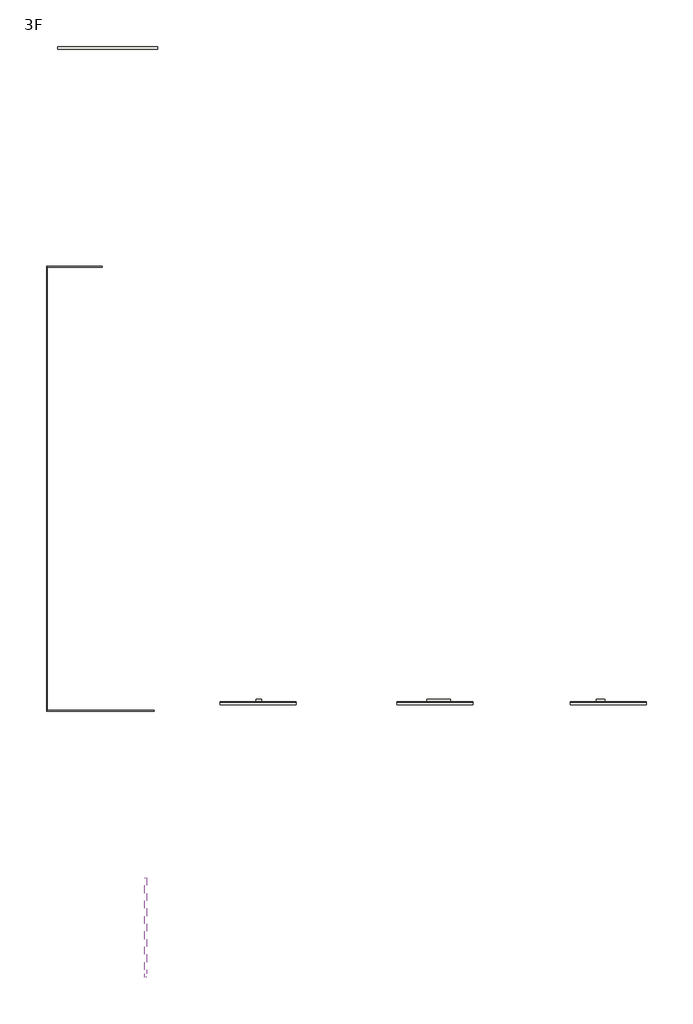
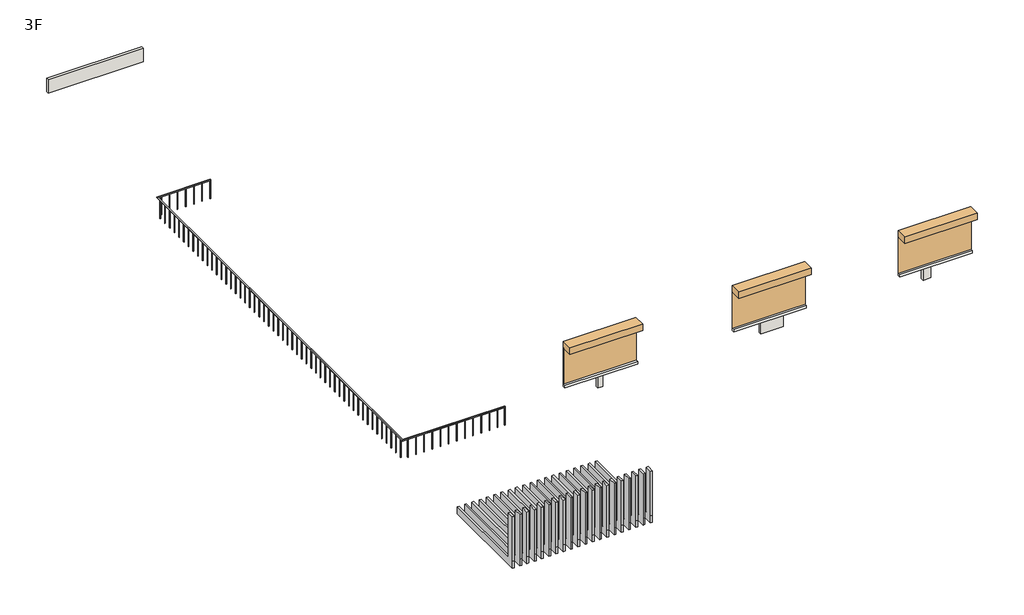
# One storey: 4 walls, 3 doors, 2 railings, 1 slab.
"""IFC4 building model written with IfcOpenShell, lengths in millimetres."""

from ifc_helpers import new_model, si_unit, frame, origin, place, context, project, spatial, polyline, outline, extrude, faceted_brep, transform, mapped, element, save
from components import rd4_2435_x_1981mm_6cb75701, railing_e0f793d8

model = new_model("IFC4")

# Units and contexts
model_context = context("Model", 3, world=origin())
ifc_project = project(units=[si_unit("LENGTHUNIT", "METRE", prefix="MILLI")], contexts=[model_context])

# Site, building, storey
site = spatial("IfcSite", under=ifc_project)
building = spatial("IfcBuilding", under=site)
storey = spatial("IfcBuildingStorey", under=building, Name="3F", Elevation=8350.0)

# Doors
placement = place(None, origin())
rd4_2435_x_1981mm_shape = rd4_2435_x_1981mm_6cb75701(model_context)
element("IfcDoor", 1, ObjectType="RD4 : 2435 x 1981mm", at=placement, inside=storey, context=model_context, shape_type="MappedRepresentation", body=[
    mapped(rd4_2435_x_1981mm_shape, transform((4930.1689947, -13704.9049261, 9250.0), x_axis=(1.0, 0.0, 0.0), y_axis=(0.0, 1.0, 0.0), z_axis=(0.0, 0.0, 1.0))),
])
element("IfcDoor", 2, ObjectType="RD4 : 2435 x 1981mm", at=placement, inside=storey, context=model_context, shape_type="MappedRepresentation", body=[
    mapped(rd4_2435_x_1981mm_shape, transform((14230.1689947, -13704.9049261, 9250.0), x_axis=(1.0, 0.0, 0.0), y_axis=(0.0, 1.0, 0.0), z_axis=(0.0, 0.0, 1.0))),
])
element("IfcDoor", 3, ObjectType="RD4 : 2435 x 1981mm", at=placement, inside=storey, context=model_context, shape_type="MappedRepresentation", body=[
    mapped(rd4_2435_x_1981mm_shape, transform((23380.168995, -13704.9049261, 9250.0), x_axis=(1.0, 0.0, 0.0), y_axis=(0.0, 1.0, 0.0), z_axis=(0.0, 0.0, 1.0))),
])

# Railings
railing_shape = railing_e0f793d8(model_context)
element("IfcRailing", 4, ObjectType="南向隔柵59 : 南向隔柵1", at=placement, inside=storey, context=model_context, shape_type="MappedRepresentation", body=[
    mapped(railing_shape, transform((0.0, 0.0, 0.0), x_axis=(1.0, 0.0, 0.0), y_axis=(0.0, 1.0, 0.0), z_axis=(0.0, 0.0, 1.0))),
])
element("IfcRailing", 5, ObjectType="1100mm", at=placement, inside=storey, context=model_context, shape_type="SolidModel", body=[
    faceted_brep([(-2509.1310053, 9100.0950739, 9450.0), (-2509.1310053, 9100.0950739, 9400.0), (-2509.1310053, 9150.0950739, 9400.0), (-2509.1310053, 9150.0950739, 9450.0), (-5384.1310053, 9100.0950739, 9450.0), (-5384.1310053, 9100.0950739, 9400.0), (-5434.1310053, 9150.0950739, 9400.0), (-5434.1310053, 9150.0950739, 9450.0), (-5384.1310053, -14209.9049261, 9450.0), (-5384.1310053, -14209.9049261, 9400.0), (-5434.1310053, -14259.9049261, 9400.0), (-5434.1310053, -14259.9049261, 9450.0), (230.8689947, -14209.9049261, 9450.0), (230.8689947, -14259.9049261, 9450.0), (230.8689947, -14259.9049261, 9400.0), (230.8689947, -14209.9049261, 9400.0)], [[[0, 1, 2, 3]], [[1, 0, 4, 5]], [[2, 1, 5, 6]], [[3, 2, 6, 7]], [[0, 3, 7, 4]], [[5, 4, 8, 9]], [[6, 5, 9, 10]], [[7, 6, 10, 11]], [[4, 7, 11, 8]], [[12, 13, 14, 15]], [[9, 8, 12, 15]], [[10, 9, 15, 14]], [[11, 10, 14, 13]], [[8, 11, 13, 12]]]),
    extrude(outline(polyline([(-181.6310053, -14247.4049261), (-181.6310053, -14222.4049261), (-156.6310053, -14222.4049261), (-156.6310053, -14247.4049261), (-181.6310053, -14247.4049261)])), frame((0.0, 0.0, 8350.0), z_axis=(0.0, 0.0, 1.0), x_axis=(1.0, 0.0, 0.0)), (0.0, 0.0, 1.0), 1050.0),
    extrude(outline(polyline([(-631.6310053, -14247.4049261), (-631.6310053, -14222.4049261), (-606.6310053, -14222.4049261), (-606.6310053, -14247.4049261), (-631.6310053, -14247.4049261)])), frame((0.0, 0.0, 8350.0), z_axis=(0.0, 0.0, 1.0), x_axis=(1.0, 0.0, 0.0)), (0.0, 0.0, 1.0), 1050.0),
    extrude(outline(polyline([(-1081.6310053, -14247.4049261), (-1081.6310053, -14222.4049261), (-1056.6310053, -14222.4049261), (-1056.6310053, -14247.4049261), (-1081.6310053, -14247.4049261)])), frame((0.0, 0.0, 8350.0), z_axis=(0.0, 0.0, 1.0), x_axis=(1.0, 0.0, 0.0)), (0.0, 0.0, 1.0), 1050.0),
    extrude(outline(polyline([(-1531.6310053, -14247.4049261), (-1531.6310053, -14222.4049261), (-1506.6310053, -14222.4049261), (-1506.6310053, -14247.4049261), (-1531.6310053, -14247.4049261)])), frame((0.0, 0.0, 8350.0), z_axis=(0.0, 0.0, 1.0), x_axis=(1.0, 0.0, 0.0)), (0.0, 0.0, 1.0), 1050.0),
    extrude(outline(polyline([(-1981.6310053, -14247.4049261), (-1981.6310053, -14222.4049261), (-1956.6310053, -14222.4049261), (-1956.6310053, -14247.4049261), (-1981.6310053, -14247.4049261)])), frame((0.0, 0.0, 8350.0), z_axis=(0.0, 0.0, 1.0), x_axis=(1.0, 0.0, 0.0)), (0.0, 0.0, 1.0), 1050.0),
    extrude(outline(polyline([(-2431.6310053, -14247.4049261), (-2431.6310053, -14222.4049261), (-2406.6310053, -14222.4049261), (-2406.6310053, -14247.4049261), (-2431.6310053, -14247.4049261)])), frame((0.0, 0.0, 8350.0), z_axis=(0.0, 0.0, 1.0), x_axis=(1.0, 0.0, 0.0)), (0.0, 0.0, 1.0), 1050.0),
    extrude(outline(polyline([(-2881.6310053, -14247.4049261), (-2881.6310053, -14222.4049261), (-2856.6310053, -14222.4049261), (-2856.6310053, -14247.4049261), (-2881.6310053, -14247.4049261)])), frame((0.0, 0.0, 8350.0), z_axis=(0.0, 0.0, 1.0), x_axis=(1.0, 0.0, 0.0)), (0.0, 0.0, 1.0), 1050.0),
    extrude(outline(polyline([(-3331.6310053, -14247.4049261), (-3331.6310053, -14222.4049261), (-3306.6310053, -14222.4049261), (-3306.6310053, -14247.4049261), (-3331.6310053, -14247.4049261)])), frame((0.0, 0.0, 8350.0), z_axis=(0.0, 0.0, 1.0), x_axis=(1.0, 0.0, 0.0)), (0.0, 0.0, 1.0), 1050.0),
    extrude(outline(polyline([(-3781.6310053, -14247.4049261), (-3781.6310053, -14222.4049261), (-3756.6310053, -14222.4049261), (-3756.6310053, -14247.4049261), (-3781.6310053, -14247.4049261)])), frame((0.0, 0.0, 8350.0), z_axis=(0.0, 0.0, 1.0), x_axis=(1.0, 0.0, 0.0)), (0.0, 0.0, 1.0), 1050.0),
    extrude(outline(polyline([(-4231.6310053, -14247.4049261), (-4231.6310053, -14222.4049261), (-4206.6310053, -14222.4049261), (-4206.6310053, -14247.4049261), (-4231.6310053, -14247.4049261)])), frame((0.0, 0.0, 8350.0), z_axis=(0.0, 0.0, 1.0), x_axis=(1.0, 0.0, 0.0)), (0.0, 0.0, 1.0), 1050.0),
    extrude(outline(polyline([(-4681.6310053, -14247.4049261), (-4681.6310053, -14222.4049261), (-4656.6310053, -14222.4049261), (-4656.6310053, -14247.4049261), (-4681.6310053, -14247.4049261)])), frame((0.0, 0.0, 8350.0), z_axis=(0.0, 0.0, 1.0), x_axis=(1.0, 0.0, 0.0)), (0.0, 0.0, 1.0), 1050.0),
    extrude(outline(polyline([(-5131.6310053, -14247.4049261), (-5131.6310053, -14222.4049261), (-5106.6310053, -14222.4049261), (-5106.6310053, -14247.4049261), (-5131.6310053, -14247.4049261)])), frame((0.0, 0.0, 8350.0), z_axis=(0.0, 0.0, 1.0), x_axis=(1.0, 0.0, 0.0)), (0.0, 0.0, 1.0), 1050.0),
    extrude(outline(polyline([(-5421.6310053, -14062.4049261), (-5396.6310053, -14062.4049261), (-5396.6310053, -14087.4049261), (-5421.6310053, -14087.4049261), (-5421.6310053, -14062.4049261)])), frame((0.0, 0.0, 8350.0), z_axis=(0.0, 0.0, 1.0), x_axis=(1.0, 0.0, 0.0)), (0.0, 0.0, 1.0), 1050.0),
    extrude(outline(polyline([(-5421.6310053, -13612.4049261), (-5396.6310053, -13612.4049261), (-5396.6310053, -13637.4049261), (-5421.6310053, -13637.4049261), (-5421.6310053, -13612.4049261)])), frame((0.0, 0.0, 8350.0), z_axis=(0.0, 0.0, 1.0), x_axis=(1.0, 0.0, 0.0)), (0.0, 0.0, 1.0), 1050.0),
    extrude(outline(polyline([(-5421.6310053, -13162.4049261), (-5396.6310053, -13162.4049261), (-5396.6310053, -13187.4049261), (-5421.6310053, -13187.4049261), (-5421.6310053, -13162.4049261)])), frame((0.0, 0.0, 8350.0), z_axis=(0.0, 0.0, 1.0), x_axis=(1.0, 0.0, 0.0)), (0.0, 0.0, 1.0), 1050.0),
    extrude(outline(polyline([(-5421.6310053, -12712.4049261), (-5396.6310053, -12712.4049261), (-5396.6310053, -12737.4049261), (-5421.6310053, -12737.4049261), (-5421.6310053, -12712.4049261)])), frame((0.0, 0.0, 8350.0), z_axis=(0.0, 0.0, 1.0), x_axis=(1.0, 0.0, 0.0)), (0.0, 0.0, 1.0), 1050.0),
    extrude(outline(polyline([(-5421.6310053, -12262.4049261), (-5396.6310053, -12262.4049261), (-5396.6310053, -12287.4049261), (-5421.6310053, -12287.4049261), (-5421.6310053, -12262.4049261)])), frame((0.0, 0.0, 8350.0), z_axis=(0.0, 0.0, 1.0), x_axis=(1.0, 0.0, 0.0)), (0.0, 0.0, 1.0), 1050.0),
    extrude(outline(polyline([(-5421.6310053, -11812.4049261), (-5396.6310053, -11812.4049261), (-5396.6310053, -11837.4049261), (-5421.6310053, -11837.4049261), (-5421.6310053, -11812.4049261)])), frame((0.0, 0.0, 8350.0), z_axis=(0.0, 0.0, 1.0), x_axis=(1.0, 0.0, 0.0)), (0.0, 0.0, 1.0), 1050.0),
    extrude(outline(polyline([(-5421.6310053, -11362.4049261), (-5396.6310053, -11362.4049261), (-5396.6310053, -11387.4049261), (-5421.6310053, -11387.4049261), (-5421.6310053, -11362.4049261)])), frame((0.0, 0.0, 8350.0), z_axis=(0.0, 0.0, 1.0), x_axis=(1.0, 0.0, 0.0)), (0.0, 0.0, 1.0), 1050.0),
    extrude(outline(polyline([(-5421.6310053, -10912.4049261), (-5396.6310053, -10912.4049261), (-5396.6310053, -10937.4049261), (-5421.6310053, -10937.4049261), (-5421.6310053, -10912.4049261)])), frame((0.0, 0.0, 8350.0), z_axis=(0.0, 0.0, 1.0), x_axis=(1.0, 0.0, 0.0)), (0.0, 0.0, 1.0), 1050.0),
    extrude(outline(polyline([(-5421.6310053, -10462.4049261), (-5396.6310053, -10462.4049261), (-5396.6310053, -10487.4049261), (-5421.6310053, -10487.4049261), (-5421.6310053, -10462.4049261)])), frame((0.0, 0.0, 8350.0), z_axis=(0.0, 0.0, 1.0), x_axis=(1.0, 0.0, 0.0)), (0.0, 0.0, 1.0), 1050.0),
    extrude(outline(polyline([(-5421.6310053, -10012.4049261), (-5396.6310053, -10012.4049261), (-5396.6310053, -10037.4049261), (-5421.6310053, -10037.4049261), (-5421.6310053, -10012.4049261)])), frame((0.0, 0.0, 8350.0), z_axis=(0.0, 0.0, 1.0), x_axis=(1.0, 0.0, 0.0)), (0.0, 0.0, 1.0), 1050.0),
    extrude(outline(polyline([(-5421.6310053, -9562.4049261), (-5396.6310053, -9562.4049261), (-5396.6310053, -9587.4049261), (-5421.6310053, -9587.4049261), (-5421.6310053, -9562.4049261)])), frame((0.0, 0.0, 8350.0), z_axis=(0.0, 0.0, 1.0), x_axis=(1.0, 0.0, 0.0)), (0.0, 0.0, 1.0), 1050.0),
    extrude(outline(polyline([(-5421.6310053, -9112.4049261), (-5396.6310053, -9112.4049261), (-5396.6310053, -9137.4049261), (-5421.6310053, -9137.4049261), (-5421.6310053, -9112.4049261)])), frame((0.0, 0.0, 8350.0), z_axis=(0.0, 0.0, 1.0), x_axis=(1.0, 0.0, 0.0)), (0.0, 0.0, 1.0), 1050.0),
    extrude(outline(polyline([(-5421.6310053, -8662.4049261), (-5396.6310053, -8662.4049261), (-5396.6310053, -8687.4049261), (-5421.6310053, -8687.4049261), (-5421.6310053, -8662.4049261)])), frame((0.0, 0.0, 8350.0), z_axis=(0.0, 0.0, 1.0), x_axis=(1.0, 0.0, 0.0)), (0.0, 0.0, 1.0), 1050.0),
    extrude(outline(polyline([(-5421.6310053, -8212.4049261), (-5396.6310053, -8212.4049261), (-5396.6310053, -8237.4049261), (-5421.6310053, -8237.4049261), (-5421.6310053, -8212.4049261)])), frame((0.0, 0.0, 8350.0), z_axis=(0.0, 0.0, 1.0), x_axis=(1.0, 0.0, 0.0)), (0.0, 0.0, 1.0), 1050.0),
    extrude(outline(polyline([(-5421.6310053, -7762.4049261), (-5396.6310053, -7762.4049261), (-5396.6310053, -7787.4049261), (-5421.6310053, -7787.4049261), (-5421.6310053, -7762.4049261)])), frame((0.0, 0.0, 8350.0), z_axis=(0.0, 0.0, 1.0), x_axis=(1.0, 0.0, 0.0)), (0.0, 0.0, 1.0), 1050.0),
    extrude(outline(polyline([(-5421.6310053, -7312.4049261), (-5396.6310053, -7312.4049261), (-5396.6310053, -7337.4049261), (-5421.6310053, -7337.4049261), (-5421.6310053, -7312.4049261)])), frame((0.0, 0.0, 8350.0), z_axis=(0.0, 0.0, 1.0), x_axis=(1.0, 0.0, 0.0)), (0.0, 0.0, 1.0), 1050.0),
    extrude(outline(polyline([(-5421.6310053, -6862.4049261), (-5396.6310053, -6862.4049261), (-5396.6310053, -6887.4049261), (-5421.6310053, -6887.4049261), (-5421.6310053, -6862.4049261)])), frame((0.0, 0.0, 8350.0), z_axis=(0.0, 0.0, 1.0), x_axis=(1.0, 0.0, 0.0)), (0.0, 0.0, 1.0), 1050.0),
    extrude(outline(polyline([(-5421.6310053, -6412.4049261), (-5396.6310053, -6412.4049261), (-5396.6310053, -6437.4049261), (-5421.6310053, -6437.4049261), (-5421.6310053, -6412.4049261)])), frame((0.0, 0.0, 8350.0), z_axis=(0.0, 0.0, 1.0), x_axis=(1.0, 0.0, 0.0)), (0.0, 0.0, 1.0), 1050.0),
    extrude(outline(polyline([(-5421.6310053, -5962.4049261), (-5396.6310053, -5962.4049261), (-5396.6310053, -5987.4049261), (-5421.6310053, -5987.4049261), (-5421.6310053, -5962.4049261)])), frame((0.0, 0.0, 8350.0), z_axis=(0.0, 0.0, 1.0), x_axis=(1.0, 0.0, 0.0)), (0.0, 0.0, 1.0), 1050.0),
    extrude(outline(polyline([(-5421.6310053, -5512.4049261), (-5396.6310053, -5512.4049261), (-5396.6310053, -5537.4049261), (-5421.6310053, -5537.4049261), (-5421.6310053, -5512.4049261)])), frame((0.0, 0.0, 8350.0), z_axis=(0.0, 0.0, 1.0), x_axis=(1.0, 0.0, 0.0)), (0.0, 0.0, 1.0), 1050.0),
    extrude(outline(polyline([(-5421.6310053, -5062.4049261), (-5396.6310053, -5062.4049261), (-5396.6310053, -5087.4049261), (-5421.6310053, -5087.4049261), (-5421.6310053, -5062.4049261)])), frame((0.0, 0.0, 8350.0), z_axis=(0.0, 0.0, 1.0), x_axis=(1.0, 0.0, 0.0)), (0.0, 0.0, 1.0), 1050.0),
    extrude(outline(polyline([(-5421.6310053, -4612.4049261), (-5396.6310053, -4612.4049261), (-5396.6310053, -4637.4049261), (-5421.6310053, -4637.4049261), (-5421.6310053, -4612.4049261)])), frame((0.0, 0.0, 8350.0), z_axis=(0.0, 0.0, 1.0), x_axis=(1.0, 0.0, 0.0)), (0.0, 0.0, 1.0), 1050.0),
    extrude(outline(polyline([(-5421.6310053, -4162.4049261), (-5396.6310053, -4162.4049261), (-5396.6310053, -4187.4049261), (-5421.6310053, -4187.4049261), (-5421.6310053, -4162.4049261)])), frame((0.0, 0.0, 8350.0), z_axis=(0.0, 0.0, 1.0), x_axis=(1.0, 0.0, 0.0)), (0.0, 0.0, 1.0), 1050.0),
    extrude(outline(polyline([(-5421.6310053, -3712.4049261), (-5396.6310053, -3712.4049261), (-5396.6310053, -3737.4049261), (-5421.6310053, -3737.4049261), (-5421.6310053, -3712.4049261)])), frame((0.0, 0.0, 8350.0), z_axis=(0.0, 0.0, 1.0), x_axis=(1.0, 0.0, 0.0)), (0.0, 0.0, 1.0), 1050.0),
    extrude(outline(polyline([(-5421.6310053, -3262.4049261), (-5396.6310053, -3262.4049261), (-5396.6310053, -3287.4049261), (-5421.6310053, -3287.4049261), (-5421.6310053, -3262.4049261)])), frame((0.0, 0.0, 8350.0), z_axis=(0.0, 0.0, 1.0), x_axis=(1.0, 0.0, 0.0)), (0.0, 0.0, 1.0), 1050.0),
    extrude(outline(polyline([(-5421.6310053, -2812.4049261), (-5396.6310053, -2812.4049261), (-5396.6310053, -2837.4049261), (-5421.6310053, -2837.4049261), (-5421.6310053, -2812.4049261)])), frame((0.0, 0.0, 8350.0), z_axis=(0.0, 0.0, 1.0), x_axis=(1.0, 0.0, 0.0)), (0.0, 0.0, 1.0), 1050.0),
    extrude(outline(polyline([(-5421.6310053, -2362.4049261), (-5396.6310053, -2362.4049261), (-5396.6310053, -2387.4049261), (-5421.6310053, -2387.4049261), (-5421.6310053, -2362.4049261)])), frame((0.0, 0.0, 8350.0), z_axis=(0.0, 0.0, 1.0), x_axis=(1.0, 0.0, 0.0)), (0.0, 0.0, 1.0), 1050.0),
    extrude(outline(polyline([(-5421.6310053, -1912.4049261), (-5396.6310053, -1912.4049261), (-5396.6310053, -1937.4049261), (-5421.6310053, -1937.4049261), (-5421.6310053, -1912.4049261)])), frame((0.0, 0.0, 8350.0), z_axis=(0.0, 0.0, 1.0), x_axis=(1.0, 0.0, 0.0)), (0.0, 0.0, 1.0), 1050.0),
    extrude(outline(polyline([(-5421.6310053, -1462.4049261), (-5396.6310053, -1462.4049261), (-5396.6310053, -1487.4049261), (-5421.6310053, -1487.4049261), (-5421.6310053, -1462.4049261)])), frame((0.0, 0.0, 8350.0), z_axis=(0.0, 0.0, 1.0), x_axis=(1.0, 0.0, 0.0)), (0.0, 0.0, 1.0), 1050.0),
    extrude(outline(polyline([(-5421.6310053, -1012.4049261), (-5396.6310053, -1012.4049261), (-5396.6310053, -1037.4049261), (-5421.6310053, -1037.4049261), (-5421.6310053, -1012.4049261)])), frame((0.0, 0.0, 8350.0), z_axis=(0.0, 0.0, 1.0), x_axis=(1.0, 0.0, 0.0)), (0.0, 0.0, 1.0), 1050.0),
    extrude(outline(polyline([(-5421.6310053, -562.4049261), (-5396.6310053, -562.4049261), (-5396.6310053, -587.4049261), (-5421.6310053, -587.4049261), (-5421.6310053, -562.4049261)])), frame((0.0, 0.0, 8350.0), z_axis=(0.0, 0.0, 1.0), x_axis=(1.0, 0.0, 0.0)), (0.0, 0.0, 1.0), 1050.0),
    extrude(outline(polyline([(-5421.6310053, -112.4049261), (-5396.6310053, -112.4049261), (-5396.6310053, -137.4049261), (-5421.6310053, -137.4049261), (-5421.6310053, -112.4049261)])), frame((0.0, 0.0, 8350.0), z_axis=(0.0, 0.0, 1.0), x_axis=(1.0, 0.0, 0.0)), (0.0, 0.0, 1.0), 1050.0),
    extrude(outline(polyline([(-5421.6310053, 337.5950739), (-5396.6310053, 337.5950739), (-5396.6310053, 312.5950739), (-5421.6310053, 312.5950739), (-5421.6310053, 337.5950739)])), frame((0.0, 0.0, 8350.0), z_axis=(0.0, 0.0, 1.0), x_axis=(1.0, 0.0, 0.0)), (0.0, 0.0, 1.0), 1050.0),
    extrude(outline(polyline([(-5421.6310053, 787.5950739), (-5396.6310053, 787.5950739), (-5396.6310053, 762.5950739), (-5421.6310053, 762.5950739), (-5421.6310053, 787.5950739)])), frame((0.0, 0.0, 8350.0), z_axis=(0.0, 0.0, 1.0), x_axis=(1.0, 0.0, 0.0)), (0.0, 0.0, 1.0), 1050.0),
    extrude(outline(polyline([(-5421.6310053, 1237.5950739), (-5396.6310053, 1237.5950739), (-5396.6310053, 1212.5950739), (-5421.6310053, 1212.5950739), (-5421.6310053, 1237.5950739)])), frame((0.0, 0.0, 8350.0), z_axis=(0.0, 0.0, 1.0), x_axis=(1.0, 0.0, 0.0)), (0.0, 0.0, 1.0), 1050.0),
    extrude(outline(polyline([(-5421.6310053, 1687.5950739), (-5396.6310053, 1687.5950739), (-5396.6310053, 1662.5950739), (-5421.6310053, 1662.5950739), (-5421.6310053, 1687.5950739)])), frame((0.0, 0.0, 8350.0), z_axis=(0.0, 0.0, 1.0), x_axis=(1.0, 0.0, 0.0)), (0.0, 0.0, 1.0), 1050.0),
    extrude(outline(polyline([(-5421.6310053, 2137.5950739), (-5396.6310053, 2137.5950739), (-5396.6310053, 2112.5950739), (-5421.6310053, 2112.5950739), (-5421.6310053, 2137.5950739)])), frame((0.0, 0.0, 8350.0), z_axis=(0.0, 0.0, 1.0), x_axis=(1.0, 0.0, 0.0)), (0.0, 0.0, 1.0), 1050.0),
    extrude(outline(polyline([(-5421.6310053, 2587.5950739), (-5396.6310053, 2587.5950739), (-5396.6310053, 2562.5950739), (-5421.6310053, 2562.5950739), (-5421.6310053, 2587.5950739)])), frame((0.0, 0.0, 8350.0), z_axis=(0.0, 0.0, 1.0), x_axis=(1.0, 0.0, 0.0)), (0.0, 0.0, 1.0), 1050.0),
    extrude(outline(polyline([(-5421.6310053, 3037.5950739), (-5396.6310053, 3037.5950739), (-5396.6310053, 3012.5950739), (-5421.6310053, 3012.5950739), (-5421.6310053, 3037.5950739)])), frame((0.0, 0.0, 8350.0), z_axis=(0.0, 0.0, 1.0), x_axis=(1.0, 0.0, 0.0)), (0.0, 0.0, 1.0), 1050.0),
    extrude(outline(polyline([(-5421.6310053, 3487.5950739), (-5396.6310053, 3487.5950739), (-5396.6310053, 3462.5950739), (-5421.6310053, 3462.5950739), (-5421.6310053, 3487.5950739)])), frame((0.0, 0.0, 8350.0), z_axis=(0.0, 0.0, 1.0), x_axis=(1.0, 0.0, 0.0)), (0.0, 0.0, 1.0), 1050.0),
    extrude(outline(polyline([(-5421.6310053, 3937.5950739), (-5396.6310053, 3937.5950739), (-5396.6310053, 3912.5950739), (-5421.6310053, 3912.5950739), (-5421.6310053, 3937.5950739)])), frame((0.0, 0.0, 8350.0), z_axis=(0.0, 0.0, 1.0), x_axis=(1.0, 0.0, 0.0)), (0.0, 0.0, 1.0), 1050.0),
    extrude(outline(polyline([(-5421.6310053, 4387.5950739), (-5396.6310053, 4387.5950739), (-5396.6310053, 4362.5950739), (-5421.6310053, 4362.5950739), (-5421.6310053, 4387.5950739)])), frame((0.0, 0.0, 8350.0), z_axis=(0.0, 0.0, 1.0), x_axis=(1.0, 0.0, 0.0)), (0.0, 0.0, 1.0), 1050.0),
    extrude(outline(polyline([(-5421.6310053, 4837.5950739), (-5396.6310053, 4837.5950739), (-5396.6310053, 4812.5950739), (-5421.6310053, 4812.5950739), (-5421.6310053, 4837.5950739)])), frame((0.0, 0.0, 8350.0), z_axis=(0.0, 0.0, 1.0), x_axis=(1.0, 0.0, 0.0)), (0.0, 0.0, 1.0), 1050.0),
    extrude(outline(polyline([(-5421.6310053, 5287.5950739), (-5396.6310053, 5287.5950739), (-5396.6310053, 5262.5950739), (-5421.6310053, 5262.5950739), (-5421.6310053, 5287.5950739)])), frame((0.0, 0.0, 8350.0), z_axis=(0.0, 0.0, 1.0), x_axis=(1.0, 0.0, 0.0)), (0.0, 0.0, 1.0), 1050.0),
    extrude(outline(polyline([(-5421.6310053, 5737.5950739), (-5396.6310053, 5737.5950739), (-5396.6310053, 5712.5950739), (-5421.6310053, 5712.5950739), (-5421.6310053, 5737.5950739)])), frame((0.0, 0.0, 8350.0), z_axis=(0.0, 0.0, 1.0), x_axis=(1.0, 0.0, 0.0)), (0.0, 0.0, 1.0), 1050.0),
    extrude(outline(polyline([(-5421.6310053, 6187.5950739), (-5396.6310053, 6187.5950739), (-5396.6310053, 6162.5950739), (-5421.6310053, 6162.5950739), (-5421.6310053, 6187.5950739)])), frame((0.0, 0.0, 8350.0), z_axis=(0.0, 0.0, 1.0), x_axis=(1.0, 0.0, 0.0)), (0.0, 0.0, 1.0), 1050.0),
    extrude(outline(polyline([(-5421.6310053, 6637.5950739), (-5396.6310053, 6637.5950739), (-5396.6310053, 6612.5950739), (-5421.6310053, 6612.5950739), (-5421.6310053, 6637.5950739)])), frame((0.0, 0.0, 8350.0), z_axis=(0.0, 0.0, 1.0), x_axis=(1.0, 0.0, 0.0)), (0.0, 0.0, 1.0), 1050.0),
    extrude(outline(polyline([(-5421.6310053, 7087.5950739), (-5396.6310053, 7087.5950739), (-5396.6310053, 7062.5950739), (-5421.6310053, 7062.5950739), (-5421.6310053, 7087.5950739)])), frame((0.0, 0.0, 8350.0), z_axis=(0.0, 0.0, 1.0), x_axis=(1.0, 0.0, 0.0)), (0.0, 0.0, 1.0), 1050.0),
    extrude(outline(polyline([(-5421.6310053, 7537.5950739), (-5396.6310053, 7537.5950739), (-5396.6310053, 7512.5950739), (-5421.6310053, 7512.5950739), (-5421.6310053, 7537.5950739)])), frame((0.0, 0.0, 8350.0), z_axis=(0.0, 0.0, 1.0), x_axis=(1.0, 0.0, 0.0)), (0.0, 0.0, 1.0), 1050.0),
    extrude(outline(polyline([(-5421.6310053, 7987.5950739), (-5396.6310053, 7987.5950739), (-5396.6310053, 7962.5950739), (-5421.6310053, 7962.5950739), (-5421.6310053, 7987.5950739)])), frame((0.0, 0.0, 8350.0), z_axis=(0.0, 0.0, 1.0), x_axis=(1.0, 0.0, 0.0)), (0.0, 0.0, 1.0), 1050.0),
    extrude(outline(polyline([(-5421.6310053, 8437.5950739), (-5396.6310053, 8437.5950739), (-5396.6310053, 8412.5950739), (-5421.6310053, 8412.5950739), (-5421.6310053, 8437.5950739)])), frame((0.0, 0.0, 8350.0), z_axis=(0.0, 0.0, 1.0), x_axis=(1.0, 0.0, 0.0)), (0.0, 0.0, 1.0), 1050.0),
    extrude(outline(polyline([(-5421.6310053, 8887.5950739), (-5396.6310053, 8887.5950739), (-5396.6310053, 8862.5950739), (-5421.6310053, 8862.5950739), (-5421.6310053, 8887.5950739)])), frame((0.0, 0.0, 8350.0), z_axis=(0.0, 0.0, 1.0), x_axis=(1.0, 0.0, 0.0)), (0.0, 0.0, 1.0), 1050.0),
    extrude(outline(polyline([(-5196.6310053, 9137.5950739), (-5196.6310053, 9112.5950739), (-5221.6310053, 9112.5950739), (-5221.6310053, 9137.5950739), (-5196.6310053, 9137.5950739)])), frame((0.0, 0.0, 8350.0), z_axis=(0.0, 0.0, 1.0), x_axis=(1.0, 0.0, 0.0)), (0.0, 0.0, 1.0), 1050.0),
    extrude(outline(polyline([(-4746.6310053, 9137.5950739), (-4746.6310053, 9112.5950739), (-4771.6310053, 9112.5950739), (-4771.6310053, 9137.5950739), (-4746.6310053, 9137.5950739)])), frame((0.0, 0.0, 8350.0), z_axis=(0.0, 0.0, 1.0), x_axis=(1.0, 0.0, 0.0)), (0.0, 0.0, 1.0), 1050.0),
    extrude(outline(polyline([(-4296.6310053, 9137.5950739), (-4296.6310053, 9112.5950739), (-4321.6310053, 9112.5950739), (-4321.6310053, 9137.5950739), (-4296.6310053, 9137.5950739)])), frame((0.0, 0.0, 8350.0), z_axis=(0.0, 0.0, 1.0), x_axis=(1.0, 0.0, 0.0)), (0.0, 0.0, 1.0), 1050.0),
    extrude(outline(polyline([(-3846.6310053, 9137.5950739), (-3846.6310053, 9112.5950739), (-3871.6310053, 9112.5950739), (-3871.6310053, 9137.5950739), (-3846.6310053, 9137.5950739)])), frame((0.0, 0.0, 8350.0), z_axis=(0.0, 0.0, 1.0), x_axis=(1.0, 0.0, 0.0)), (0.0, 0.0, 1.0), 1050.0),
    extrude(outline(polyline([(-3396.6310053, 9137.5950739), (-3396.6310053, 9112.5950739), (-3421.6310053, 9112.5950739), (-3421.6310053, 9137.5950739), (-3396.6310053, 9137.5950739)])), frame((0.0, 0.0, 8350.0), z_axis=(0.0, 0.0, 1.0), x_axis=(1.0, 0.0, 0.0)), (0.0, 0.0, 1.0), 1050.0),
    extrude(outline(polyline([(-2946.6310053, 9137.5950739), (-2946.6310053, 9112.5950739), (-2971.6310053, 9112.5950739), (-2971.6310053, 9137.5950739), (-2946.6310053, 9137.5950739)])), frame((0.0, 0.0, 8350.0), z_axis=(0.0, 0.0, 1.0), x_axis=(1.0, 0.0, 0.0)), (0.0, 0.0, 1.0), 1050.0),
    extrude(outline(polyline([(218.3689947, -14247.4049261), (218.3689947, -14222.4049261), (243.3689947, -14222.4049261), (243.3689947, -14247.4049261), (218.3689947, -14247.4049261)])), frame((0.0, 0.0, 8350.0), z_axis=(0.0, 0.0, 1.0), x_axis=(1.0, 0.0, 0.0)), (0.0, 0.0, 1.0), 1050.0),
    extrude(outline(polyline([(-2496.6310053, 9137.5950739), (-2496.6310053, 9112.5950739), (-2521.6310053, 9112.5950739), (-2521.6310053, 9137.5950739), (-2496.6310053, 9137.5950739)])), frame((0.0, 0.0, 8350.0), z_axis=(0.0, 0.0, 1.0), x_axis=(1.0, 0.0, 0.0)), (0.0, 0.0, 1.0), 1050.0),
])

# Slab
element("IfcSlab", 6, ObjectType="RC樓板15", at=placement, inside=storey, context=model_context, shape_type="SweptSolid", body=[
    extrude(outline(polyline([(7715.8689947, -13779.9049261), (7715.8689947, -13929.9049261), (3715.8689947, -13929.9049261), (3715.8689947, -13779.9049261), (7715.8689947, -13779.9049261)])), frame((0.0, 0.0, 9100.0), z_axis=(0.0, 0.0, 1.0), x_axis=(1.0, 0.0, 0.0)), (0.0, 0.0, 1.0), 150.0),
    extrude(outline(polyline([(17015.8689947, -13779.9049261), (17015.8689947, -13929.9049261), (13015.8689947, -13929.9049261), (13015.8689947, -13779.9049261), (17015.8689947, -13779.9049261)])), frame((0.0, 0.0, 9100.0), z_axis=(0.0, 0.0, 1.0), x_axis=(1.0, 0.0, 0.0)), (0.0, 0.0, 1.0), 150.0),
    extrude(outline(polyline([(26165.868995, -13779.9049261), (26165.868995, -13929.9049261), (22165.868995, -13929.9049261), (22165.868995, -13779.9049261), (26165.868995, -13779.9049261)])), frame((0.0, 0.0, 9100.0), z_axis=(0.0, 0.0, 1.0), x_axis=(1.0, 0.0, 0.0)), (0.0, 0.0, 1.0), 150.0),
])

# Walls
element("IfcWall", 7, ObjectType="RC牆15", at=placement, inside=storey, context=model_context, shape_type="SweptSolid", body=[
    extrude(outline(polyline([(415.8123388, 20570.0950729), (-4834.173593, 20570.0950729), (-4834.173593, 20720.0950729), (415.8123388, 20720.0950729), (415.8123388, 20570.0950729)])), frame((0.0, 0.0, 8350.0), z_axis=(0.0, 0.0, 1.0), x_axis=(1.0, 0.0, 0.0)), (0.0, 0.0, 1.0), 800.0),
])
element("IfcWall", 8, ObjectType="RC牆15", at=placement, inside=storey, context=model_context, shape_type="SweptSolid", body=[
    extrude(outline(polyline([(23970.868995, -13779.9049261), (23530.868995, -13779.9049261), (23530.868995, -13629.9049261), (23970.868995, -13629.9049261), (23970.868995, -13779.9049261)])), frame((0.0, 0.0, 8350.0), z_axis=(0.0, 0.0, 1.0), x_axis=(1.0, 0.0, 0.0)), (0.0, 0.0, 1.0), 800.0),
])
element("IfcWall", 9, ObjectType="RC牆15", at=placement, inside=storey, context=model_context, shape_type="SweptSolid", body=[
    extrude(outline(polyline([(5890.8689947, -13779.9049261), (5610.8689947, -13779.9049261), (5610.8689947, -13629.9049261), (5890.8689947, -13629.9049261), (5890.8689947, -13779.9049261)])), frame((0.0, 0.0, 8350.0), z_axis=(0.0, 0.0, 1.0), x_axis=(1.0, 0.0, 0.0)), (0.0, 0.0, 1.0), 800.0),
])
element("IfcWall", 10, ObjectType="RC牆15", at=placement, inside=storey, context=model_context, shape_type="SweptSolid", body=[
    extrude(outline(polyline([(15840.8689947, -13779.9049261), (14600.8689947, -13779.9049261), (14600.8689947, -13629.9049261), (15840.8689947, -13629.9049261), (15840.8689947, -13779.9049261)])), frame((0.0, 0.0, 8350.0), z_axis=(0.0, 0.0, 1.0), x_axis=(1.0, 0.0, 0.0)), (0.0, 0.0, 1.0), 800.0),
])

save(model, "model.ifc")
